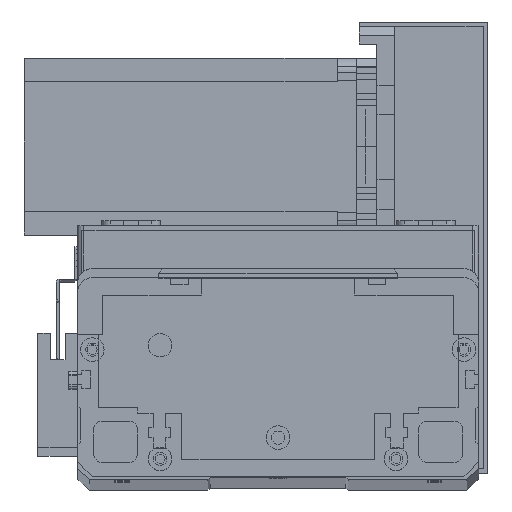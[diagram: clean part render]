
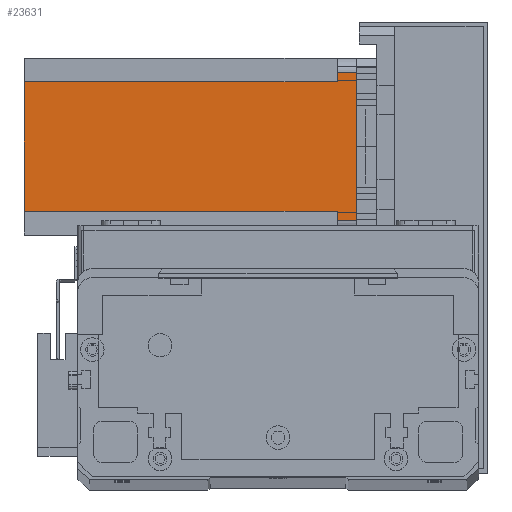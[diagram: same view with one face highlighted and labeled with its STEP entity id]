
A CAD part, top view. The second image highlights one B-rep face of the part: STEP entity #23631.
In plain terms, the highlighted planar face has unit normal (0, 0, 1) as drawn and (0, 1, 0) by its records, which use the part's own axes.
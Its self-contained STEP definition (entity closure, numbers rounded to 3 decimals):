
#1311 = LINE ( 'NONE', #27786, #7188 ) ;
#2434 = ORIENTED_EDGE ( 'NONE', *, *, #11105, .F. ) ;
#2943 = VERTEX_POINT ( 'NONE', #17821 ) ;
#3189 = ORIENTED_EDGE ( 'NONE', *, *, #24483, .F. ) ;
#3442 = VERTEX_POINT ( 'NONE', #11265 ) ;
#3966 = LINE ( 'NONE', #10521, #28012 ) ;
#5320 = CARTESIAN_POINT ( 'NONE',  ( 8., 60., -6.5 ) ) ;
#5355 = DIRECTION ( 'NONE',  ( -1., 0., 0. ) ) ;
#5365 = EDGE_LOOP ( 'NONE', ( #3189, #14881, #15605, #2434, #7570, #12802, #20423, #29179 ) ) ;
#5569 = CARTESIAN_POINT ( 'NONE',  ( 52., 60., -112.5 ) ) ;
#5686 = VERTEX_POINT ( 'NONE', #24416 ) ;
#5981 = LINE ( 'NONE', #27138, #29728 ) ;
#6254 = VECTOR ( 'NONE', #21936, 1000. ) ;
#7043 = LINE ( 'NONE', #23565, #6254 ) ;
#7188 = VECTOR ( 'NONE', #28383, 1000. ) ;
#7570 = ORIENTED_EDGE ( 'NONE', *, *, #11514, .T. ) ;
#7743 = VERTEX_POINT ( 'NONE', #5569 ) ;
#8064 = EDGE_CURVE ( 'NONE', #3442, #2943, #1311, .T. ) ;
#9232 = CARTESIAN_POINT ( 'NONE',  ( 8., 60., -112.5 ) ) ;
#9262 = CARTESIAN_POINT ( 'NONE',  ( 5., 60., -6.5 ) ) ;
#9860 = EDGE_CURVE ( 'NONE', #22305, #2943, #3966, .T. ) ;
#9900 = CARTESIAN_POINT ( 'NONE',  ( 0., 60., -112.5 ) ) ;
#9927 = VERTEX_POINT ( 'NONE', #9232 ) ;
#9966 = DIRECTION ( 'NONE',  ( -1., 0., 0. ) ) ;
#10044 = LINE ( 'NONE', #9900, #28279 ) ;
#10424 = DIRECTION ( 'NONE',  ( 1., 0., 0. ) ) ;
#10521 = CARTESIAN_POINT ( 'NONE',  ( 52., 60., -6.5 ) ) ;
#11105 = EDGE_CURVE ( 'NONE', #7743, #22305, #7043, .T. ) ;
#11171 = DIRECTION ( 'NONE',  ( -1., 0., 0. ) ) ;
#11265 = CARTESIAN_POINT ( 'NONE',  ( 55., 60., 0. ) ) ;
#11514 = EDGE_CURVE ( 'NONE', #7743, #9927, #10044, .T. ) ;
#11653 = PLANE ( 'NONE',  #27362 ) ;
#12080 = EDGE_CURVE ( 'NONE', #28084, #9927, #19456, .T. ) ;
#12509 = LINE ( 'NONE', #5320, #24728 ) ;
#12802 = ORIENTED_EDGE ( 'NONE', *, *, #12080, .F. ) ;
#13326 = VECTOR ( 'NONE', #25435, 1000. ) ;
#13413 = VERTEX_POINT ( 'NONE', #9262 ) ;
#13651 = EDGE_CURVE ( 'NONE', #28084, #13413, #12509, .T. ) ;
#14714 = EDGE_CURVE ( 'NONE', #13413, #5686, #15682, .T. ) ;
#14881 = ORIENTED_EDGE ( 'NONE', *, *, #8064, .T. ) ;
#15605 = ORIENTED_EDGE ( 'NONE', *, *, #9860, .F. ) ;
#15682 = LINE ( 'NONE', #16686, #27064 ) ;
#16279 = DIRECTION ( 'NONE',  ( 0., 0., 1. ) ) ;
#16623 = DIRECTION ( 'NONE',  ( 0., 0., 1. ) ) ;
#16686 = CARTESIAN_POINT ( 'NONE',  ( 5., 60., -112.5 ) ) ;
#17821 = CARTESIAN_POINT ( 'NONE',  ( 55., 60., -6.5 ) ) ;
#18417 = CARTESIAN_POINT ( 'NONE',  ( 52., 60., -6.5 ) ) ;
#19456 = LINE ( 'NONE', #25426, #13326 ) ;
#20423 = ORIENTED_EDGE ( 'NONE', *, *, #13651, .T. ) ;
#21936 = DIRECTION ( 'NONE',  ( 0., 0., 1. ) ) ;
#22173 = FACE_OUTER_BOUND ( 'NONE', #5365, .T. ) ;
#22305 = VERTEX_POINT ( 'NONE', #18417 ) ;
#23565 = CARTESIAN_POINT ( 'NONE',  ( 52., 60., -112.5 ) ) ;
#23631 = ADVANCED_FACE ( 'NONE', ( #22173 ), #11653, .T. ) ;
#24027 = CARTESIAN_POINT ( 'NONE',  ( 8., 60., -6.5 ) ) ;
#24416 = CARTESIAN_POINT ( 'NONE',  ( 5., 60., 0. ) ) ;
#24483 = EDGE_CURVE ( 'NONE', #3442, #5686, #5981, .T. ) ;
#24728 = VECTOR ( 'NONE', #5355, 1000. ) ;
#25426 = CARTESIAN_POINT ( 'NONE',  ( 8., 60., -112.5 ) ) ;
#25435 = DIRECTION ( 'NONE',  ( 0., 0., -1. ) ) ;
#27064 = VECTOR ( 'NONE', #16623, 1000. ) ;
#27138 = CARTESIAN_POINT ( 'NONE',  ( 0., 60., 0. ) ) ;
#27362 = AXIS2_PLACEMENT_3D ( 'NONE', #27607, #29760, #16279 ) ;
#27607 = CARTESIAN_POINT ( 'NONE',  ( 0., 60., -112.5 ) ) ;
#27786 = CARTESIAN_POINT ( 'NONE',  ( 55., 60., -112.5 ) ) ;
#28012 = VECTOR ( 'NONE', #10424, 1000. ) ;
#28084 = VERTEX_POINT ( 'NONE', #24027 ) ;
#28279 = VECTOR ( 'NONE', #9966, 1000. ) ;
#28383 = DIRECTION ( 'NONE',  ( 0., 0., -1. ) ) ;
#29179 = ORIENTED_EDGE ( 'NONE', *, *, #14714, .T. ) ;
#29728 = VECTOR ( 'NONE', #11171, 1000. ) ;
#29760 = DIRECTION ( 'NONE',  ( 0., 1., 0. ) ) ;
